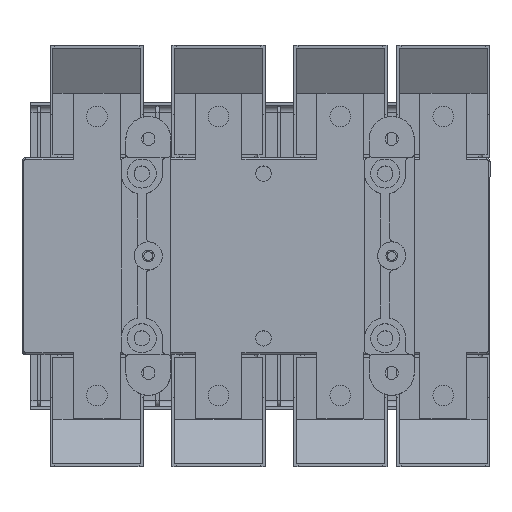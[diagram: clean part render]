
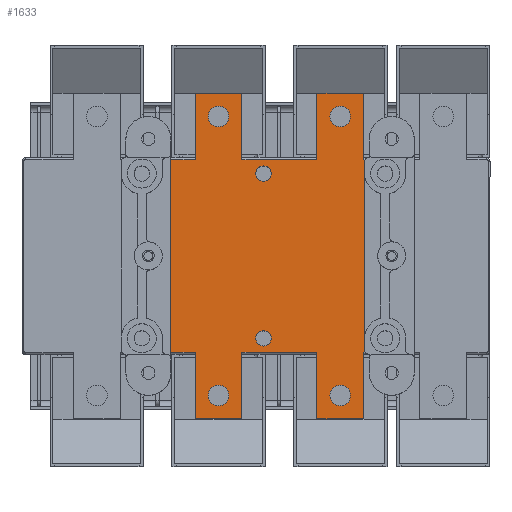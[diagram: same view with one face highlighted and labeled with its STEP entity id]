
A CAD part, top view. The second image highlights one B-rep face of the part: STEP entity #1633.
In plain terms, the highlighted planar face has unit normal (0, 0, 1).
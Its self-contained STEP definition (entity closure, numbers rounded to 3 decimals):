
#1633=ADVANCED_FACE('',(#9165,#9166,#9167,#9168,#9169,#9170,#9171),#2887,
 .F.);
#2887=PLANE('',#24688);
#3937=LINE('',#34039,#6638);
#3938=LINE('',#34042,#6639);
#3939=LINE('',#34044,#6640);
#3940=LINE('',#34046,#6641);
#3941=LINE('',#34048,#6642);
#3942=LINE('',#34050,#6643);
#3943=LINE('',#34052,#6644);
#3944=LINE('',#34054,#6645);
#3945=LINE('',#34056,#6646);
#3946=LINE('',#34058,#6647);
#3947=LINE('',#34062,#6648);
#3948=LINE('',#34066,#6649);
#3949=LINE('',#34068,#6650);
#3950=LINE('',#34070,#6651);
#3951=LINE('',#34072,#6652);
#3952=LINE('',#34074,#6653);
#3953=LINE('',#34076,#6654);
#3954=LINE('',#34078,#6655);
#3955=LINE('',#34080,#6656);
#3956=LINE('',#34082,#6657);
#6638=VECTOR('',#27033,1.);
#6639=VECTOR('',#27034,1.);
#6640=VECTOR('',#27035,1.);
#6641=VECTOR('',#27036,1.);
#6642=VECTOR('',#27037,1.);
#6643=VECTOR('',#27038,1.);
#6644=VECTOR('',#27039,1.);
#6645=VECTOR('',#27040,1.);
#6646=VECTOR('',#27041,1.);
#6647=VECTOR('',#27042,1.);
#6648=VECTOR('',#27045,1.);
#6649=VECTOR('',#27048,1.);
#6650=VECTOR('',#27049,1.);
#6651=VECTOR('',#27050,1.);
#6652=VECTOR('',#27051,1.);
#6653=VECTOR('',#27052,1.);
#6654=VECTOR('',#27053,1.);
#6655=VECTOR('',#27054,1.);
#6656=VECTOR('',#27055,1.);
#6657=VECTOR('',#27056,1.);
#9165=FACE_BOUND('',#9470,.T.);
#9166=FACE_BOUND('',#9471,.T.);
#9167=FACE_BOUND('',#9472,.T.);
#9168=FACE_BOUND('',#9473,.T.);
#9169=FACE_BOUND('',#9474,.T.);
#9170=FACE_BOUND('',#9475,.T.);
#9171=FACE_BOUND('',#9476,.T.);
#9470=EDGE_LOOP('',(#11165));
#9471=EDGE_LOOP('',(#11166));
#9472=EDGE_LOOP('',(#11167));
#9473=EDGE_LOOP('',(#11168));
#9474=EDGE_LOOP('',(#11169));
#9475=EDGE_LOOP('',(#11170));
#9476=EDGE_LOOP('',(#11171,#11172,#11173,#11174,#11175,#11176,#11177,#11178,
#11179,#11180,#11181,#11182,#11183,#11184,#11185,#11186,#11187,#11188,#11189,
#11190,#11191,#11192));
#11165=ORIENTED_EDGE('',*,*,#20511,.T.);
#11166=ORIENTED_EDGE('',*,*,#20512,.T.);
#11167=ORIENTED_EDGE('',*,*,#20513,.T.);
#11168=ORIENTED_EDGE('',*,*,#20514,.T.);
#11169=ORIENTED_EDGE('',*,*,#20515,.F.);
#11170=ORIENTED_EDGE('',*,*,#20516,.F.);
#11171=ORIENTED_EDGE('',*,*,#20517,.F.);
#11172=ORIENTED_EDGE('',*,*,#20518,.T.);
#11173=ORIENTED_EDGE('',*,*,#20519,.F.);
#11174=ORIENTED_EDGE('',*,*,#20520,.F.);
#11175=ORIENTED_EDGE('',*,*,#20521,.F.);
#11176=ORIENTED_EDGE('',*,*,#20522,.T.);
#11177=ORIENTED_EDGE('',*,*,#20523,.T.);
#11178=ORIENTED_EDGE('',*,*,#20524,.T.);
#11179=ORIENTED_EDGE('',*,*,#20525,.T.);
#11180=ORIENTED_EDGE('',*,*,#20526,.T.);
#11181=ORIENTED_EDGE('',*,*,#20527,.T.);
#11182=ORIENTED_EDGE('',*,*,#20528,.T.);
#11183=ORIENTED_EDGE('',*,*,#20529,.T.);
#11184=ORIENTED_EDGE('',*,*,#20530,.T.);
#11185=ORIENTED_EDGE('',*,*,#20531,.T.);
#11186=ORIENTED_EDGE('',*,*,#20532,.T.);
#11187=ORIENTED_EDGE('',*,*,#20533,.T.);
#11188=ORIENTED_EDGE('',*,*,#20534,.T.);
#11189=ORIENTED_EDGE('',*,*,#20535,.F.);
#11190=ORIENTED_EDGE('',*,*,#20536,.F.);
#11191=ORIENTED_EDGE('',*,*,#20537,.F.);
#11192=ORIENTED_EDGE('',*,*,#20538,.T.);
#18187=VERTEX_POINT('',#34028);
#18188=VERTEX_POINT('',#34030);
#18189=VERTEX_POINT('',#34032);
#18190=VERTEX_POINT('',#34034);
#18191=VERTEX_POINT('',#34036);
#18192=VERTEX_POINT('',#34038);
#18193=VERTEX_POINT('',#34040);
#18194=VERTEX_POINT('',#34041);
#18195=VERTEX_POINT('',#34043);
#18196=VERTEX_POINT('',#34045);
#18197=VERTEX_POINT('',#34047);
#18198=VERTEX_POINT('',#34049);
#18199=VERTEX_POINT('',#34051);
#18200=VERTEX_POINT('',#34053);
#18201=VERTEX_POINT('',#34055);
#18202=VERTEX_POINT('',#34057);
#18203=VERTEX_POINT('',#34059);
#18204=VERTEX_POINT('',#34061);
#18205=VERTEX_POINT('',#34063);
#18206=VERTEX_POINT('',#34065);
#18207=VERTEX_POINT('',#34067);
#18208=VERTEX_POINT('',#34069);
#18209=VERTEX_POINT('',#34071);
#18210=VERTEX_POINT('',#34073);
#18211=VERTEX_POINT('',#34075);
#18212=VERTEX_POINT('',#34077);
#18213=VERTEX_POINT('',#34079);
#18214=VERTEX_POINT('',#34081);
#20511=EDGE_CURVE('',#18187,#18187,#23832,.T.);
#20512=EDGE_CURVE('',#18188,#18188,#23833,.T.);
#20513=EDGE_CURVE('',#18189,#18189,#23834,.T.);
#20514=EDGE_CURVE('',#18190,#18190,#23835,.T.);
#20515=EDGE_CURVE('',#18191,#18191,#23836,.T.);
#20516=EDGE_CURVE('',#18192,#18192,#23837,.T.);
#20517=EDGE_CURVE('',#18193,#18194,#3937,.T.);
#20518=EDGE_CURVE('',#18193,#18195,#3938,.T.);
#20519=EDGE_CURVE('',#18196,#18195,#3939,.T.);
#20520=EDGE_CURVE('',#18197,#18196,#3940,.T.);
#20521=EDGE_CURVE('',#18198,#18197,#3941,.T.);
#20522=EDGE_CURVE('',#18198,#18199,#3942,.T.);
#20523=EDGE_CURVE('',#18199,#18200,#3943,.T.);
#20524=EDGE_CURVE('',#18200,#18201,#3944,.T.);
#20525=EDGE_CURVE('',#18201,#18202,#3945,.T.);
#20526=EDGE_CURVE('',#18202,#18203,#3946,.T.);
#20527=EDGE_CURVE('',#18203,#18204,#23838,.T.);
#20528=EDGE_CURVE('',#18204,#18205,#3947,.T.);
#20529=EDGE_CURVE('',#18205,#18206,#23839,.T.);
#20530=EDGE_CURVE('',#18206,#18207,#3948,.T.);
#20531=EDGE_CURVE('',#18207,#18208,#3949,.T.);
#20532=EDGE_CURVE('',#18208,#18209,#3950,.T.);
#20533=EDGE_CURVE('',#18209,#18210,#3951,.T.);
#20534=EDGE_CURVE('',#18210,#18211,#3952,.T.);
#20535=EDGE_CURVE('',#18212,#18211,#3953,.T.);
#20536=EDGE_CURVE('',#18213,#18212,#3954,.T.);
#20537=EDGE_CURVE('',#18214,#18213,#3955,.T.);
#20538=EDGE_CURVE('',#18214,#18194,#3956,.T.);
#23832=CIRCLE('',#24680,5.5);
#23833=CIRCLE('',#24681,5.5);
#23834=CIRCLE('',#24682,5.5);
#23835=CIRCLE('',#24683,5.5);
#23836=CIRCLE('',#24684,4.1);
#23837=CIRCLE('',#24685,4.1);
#23838=CIRCLE('',#24686,2.);
#23839=CIRCLE('',#24687,2.);
#24680=AXIS2_PLACEMENT_3D('',#34027,#27021,#27022);
#24681=AXIS2_PLACEMENT_3D('',#34029,#27023,#27024);
#24682=AXIS2_PLACEMENT_3D('',#34031,#27025,#27026);
#24683=AXIS2_PLACEMENT_3D('',#34033,#27027,#27028);
#24684=AXIS2_PLACEMENT_3D('',#34035,#27029,#27030);
#24685=AXIS2_PLACEMENT_3D('',#34037,#27031,#27032);
#24686=AXIS2_PLACEMENT_3D('',#34060,#27043,#27044);
#24687=AXIS2_PLACEMENT_3D('',#34064,#27046,#27047);
#24688=AXIS2_PLACEMENT_3D('',#34083,#27057,#27058);
#27021=DIRECTION('',(0.,0.,-1.));
#27022=DIRECTION('',(-1.,0.,0.));
#27023=DIRECTION('',(0.,0.,-1.));
#27024=DIRECTION('',(-1.,0.,0.));
#27025=DIRECTION('',(0.,0.,-1.));
#27026=DIRECTION('',(-1.,0.,0.));
#27027=DIRECTION('',(0.,0.,-1.));
#27028=DIRECTION('',(-1.,0.,0.));
#27029=DIRECTION('',(0.,0.,1.));
#27030=DIRECTION('',(-1.,0.,0.));
#27031=DIRECTION('',(0.,0.,1.));
#27032=DIRECTION('',(-1.,0.,0.));
#27033=DIRECTION('',(0.,1.,0.));
#27034=DIRECTION('',(1.,0.,0.));
#27035=DIRECTION('',(0.,1.,0.));
#27036=DIRECTION('',(-1.,0.,0.));
#27037=DIRECTION('',(0.,-1.,0.));
#27038=DIRECTION('',(1.,0.,0.));
#27039=DIRECTION('',(0.,-1.,0.));
#27040=DIRECTION('',(1.,0.,0.));
#27041=DIRECTION('',(0.,1.,0.));
#27042=DIRECTION('',(1.,0.,0.));
#27043=DIRECTION('',(0.,0.,-1.));
#27044=DIRECTION('',(-1.,0.,0.));
#27045=DIRECTION('',(0.,1.,0.));
#27046=DIRECTION('',(0.,0.,-1.));
#27047=DIRECTION('',(-1.,0.,0.));
#27048=DIRECTION('',(-1.,0.,0.));
#27049=DIRECTION('',(0.,1.,0.));
#27050=DIRECTION('',(-1.,0.,0.));
#27051=DIRECTION('',(0.,-1.,0.));
#27052=DIRECTION('',(-1.,0.,0.));
#27053=DIRECTION('',(0.,-1.,0.));
#27054=DIRECTION('',(1.,0.,0.));
#27055=DIRECTION('',(0.,1.,0.));
#27056=DIRECTION('',(-1.,0.,0.));
#27057=DIRECTION('',(0.,0.,-1.));
#27058=DIRECTION('',(-1.,0.,0.));
#34027=CARTESIAN_POINT('',(-27.5,74.5,0.));
#34028=CARTESIAN_POINT('',(-33.,74.5,0.));
#34029=CARTESIAN_POINT('',(-92.5,74.5,0.));
#34030=CARTESIAN_POINT('',(-98.,74.5,0.));
#34031=CARTESIAN_POINT('',(-92.5,-74.5,0.));
#34032=CARTESIAN_POINT('',(-98.,-74.5,0.));
#34033=CARTESIAN_POINT('',(-27.5,-74.5,0.));
#34034=CARTESIAN_POINT('',(-33.,-74.5,0.));
#34035=CARTESIAN_POINT('',(-68.5,44.,0.));
#34036=CARTESIAN_POINT('',(-72.6,44.,0.));
#34037=CARTESIAN_POINT('',(-68.5,-44.,0.));
#34038=CARTESIAN_POINT('',(-72.6,-44.,0.));
#34039=CARTESIAN_POINT('',(-118.,62.5,0.));
#34040=CARTESIAN_POINT('',(-118.,-51.5,0.));
#34041=CARTESIAN_POINT('',(-118.,51.5,0.));
#34042=CARTESIAN_POINT('',(-12.5,-51.5,0.));
#34043=CARTESIAN_POINT('',(-105.,-51.5,0.));
#34044=CARTESIAN_POINT('',(-105.,-87.,0.));
#34045=CARTESIAN_POINT('',(-105.,-87.,0.));
#34046=CARTESIAN_POINT('',(-80.,-87.,0.));
#34047=CARTESIAN_POINT('',(-80.,-87.,0.));
#34048=CARTESIAN_POINT('',(-80.,87.,0.));
#34049=CARTESIAN_POINT('',(-80.,-51.5,0.));
#34050=CARTESIAN_POINT('',(-12.5,-51.5,0.));
#34051=CARTESIAN_POINT('',(-40.,-51.5,0.));
#34052=CARTESIAN_POINT('',(-40.,87.,0.));
#34053=CARTESIAN_POINT('',(-40.,-87.,0.));
#34054=CARTESIAN_POINT('',(-40.,-87.,0.));
#34055=CARTESIAN_POINT('',(-15.,-87.,0.));
#34056=CARTESIAN_POINT('',(-15.,-87.,0.));
#34057=CARTESIAN_POINT('',(-15.,-51.5,0.));
#34058=CARTESIAN_POINT('',(-12.5,-51.5,0.));
#34059=CARTESIAN_POINT('',(-14.232,-51.5,0.));
#34060=CARTESIAN_POINT('',(-12.5,-50.5,0.));
#34061=CARTESIAN_POINT('',(-14.5,-50.5,0.));
#34062=CARTESIAN_POINT('',(-14.5,62.5,0.));
#34063=CARTESIAN_POINT('',(-14.5,50.5,0.));
#34064=CARTESIAN_POINT('',(-12.5,50.5,0.));
#34065=CARTESIAN_POINT('',(-14.232,51.5,0.));
#34066=CARTESIAN_POINT('',(-195.5,51.5,0.));
#34067=CARTESIAN_POINT('',(-15.,51.5,0.));
#34068=CARTESIAN_POINT('',(-15.,-87.,0.));
#34069=CARTESIAN_POINT('',(-15.,87.,0.));
#34070=CARTESIAN_POINT('',(-15.,87.,0.));
#34071=CARTESIAN_POINT('',(-40.,87.,0.));
#34072=CARTESIAN_POINT('',(-40.,87.,0.));
#34073=CARTESIAN_POINT('',(-40.,51.5,0.));
#34074=CARTESIAN_POINT('',(-195.5,51.5,0.));
#34075=CARTESIAN_POINT('',(-80.,51.5,0.));
#34076=CARTESIAN_POINT('',(-80.,87.,0.));
#34077=CARTESIAN_POINT('',(-80.,87.,0.));
#34078=CARTESIAN_POINT('',(-105.,87.,0.));
#34079=CARTESIAN_POINT('',(-105.,87.,0.));
#34080=CARTESIAN_POINT('',(-105.,-87.,0.));
#34081=CARTESIAN_POINT('',(-105.,51.5,0.));
#34082=CARTESIAN_POINT('',(-195.5,51.5,0.));
#34083=CARTESIAN_POINT('',(50.5,-50.5,0.));
